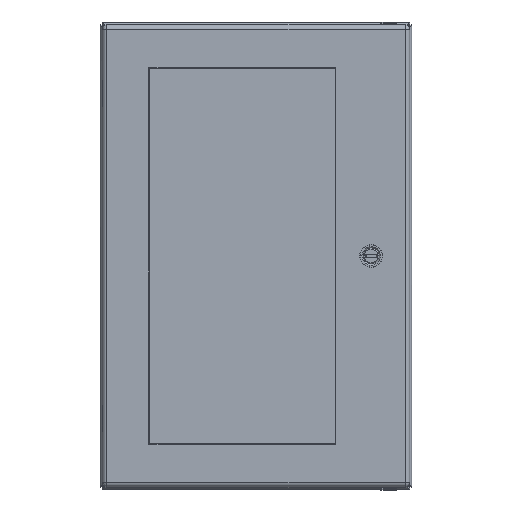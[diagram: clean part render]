
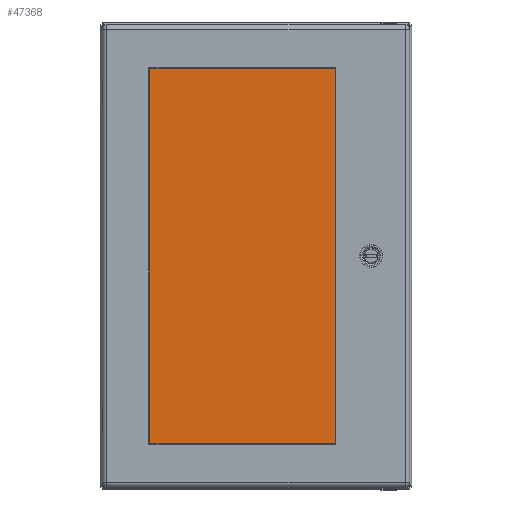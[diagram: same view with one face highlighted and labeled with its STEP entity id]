
A CAD part, top view. The second image highlights one B-rep face of the part: STEP entity #47368.
In plain terms, the highlighted planar face has unit normal (0, 0, 1).
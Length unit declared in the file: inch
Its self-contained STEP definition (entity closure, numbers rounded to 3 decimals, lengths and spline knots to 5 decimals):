
#1610 = VERTEX_POINT ( 'NONE', #25167 ) ;
#5544 = LINE ( 'NONE', #52063, #58571 ) ;
#6940 = EDGE_LOOP ( 'NONE', ( #24380, #16504, #56308, #15028 ) ) ;
#6947 = PLANE ( 'NONE',  #40014 ) ;
#7762 = CARTESIAN_POINT ( 'NONE',  ( 3.6285, -7.326, 0.23 ) ) ;
#9208 = VERTEX_POINT ( 'NONE', #7762 ) ;
#9959 = LINE ( 'NONE', #15436, #45050 ) ;
#12385 = DIRECTION ( 'NONE',  ( 0., 0., -1. ) ) ;
#13866 = CARTESIAN_POINT ( 'NONE',  ( -3.6285, 7.326, 0.23 ) ) ;
#15028 = ORIENTED_EDGE ( 'NONE', *, *, #52943, .T. ) ;
#15436 = CARTESIAN_POINT ( 'NONE',  ( 3.6285, 7.326, 0.23 ) ) ;
#16504 = ORIENTED_EDGE ( 'NONE', *, *, #58855, .T. ) ;
#18441 = LINE ( 'NONE', #56712, #23117 ) ;
#19370 = VERTEX_POINT ( 'NONE', #61952 ) ;
#21090 = LINE ( 'NONE', #13866, #39102 ) ;
#23117 = VECTOR ( 'NONE', #26862, 39.37008 ) ;
#23965 = FACE_OUTER_BOUND ( 'NONE', #6940, .T. ) ;
#24380 = ORIENTED_EDGE ( 'NONE', *, *, #42817, .T. ) ;
#25167 = CARTESIAN_POINT ( 'NONE',  ( -3.6285, -7.326, 0.23 ) ) ;
#25661 = DIRECTION ( 'NONE',  ( 0., 1., 0. ) ) ;
#26862 = DIRECTION ( 'NONE',  ( 1., 0., 0. ) ) ;
#32425 = DIRECTION ( 'NONE',  ( 0., -1., 0. ) ) ;
#35375 = EDGE_CURVE ( 'NONE', #9208, #19370, #9959, .T. ) ;
#39102 = VECTOR ( 'NONE', #63578, 39.37008 ) ;
#40014 = AXIS2_PLACEMENT_3D ( 'NONE', #42236, #12385, #47282 ) ;
#40210 = CARTESIAN_POINT ( 'NONE',  ( -3.6285, 7.326, 0.23 ) ) ;
#42236 = CARTESIAN_POINT ( 'NONE',  ( -3.9775, 7.675, 0.23 ) ) ;
#42817 = EDGE_CURVE ( 'NONE', #44935, #1610, #5544, .T. ) ;
#44935 = VERTEX_POINT ( 'NONE', #40210 ) ;
#45050 = VECTOR ( 'NONE', #25661, 39.37008 ) ;
#47282 = DIRECTION ( 'NONE',  ( -1., 0., 0. ) ) ;
#47368 = ADVANCED_FACE ( 'NONE', ( #23965 ), #6947, .F. ) ;
#52063 = CARTESIAN_POINT ( 'NONE',  ( -3.6285, 7.326, 0.23 ) ) ;
#52943 = EDGE_CURVE ( 'NONE', #19370, #44935, #21090, .T. ) ;
#56308 = ORIENTED_EDGE ( 'NONE', *, *, #35375, .T. ) ;
#56712 = CARTESIAN_POINT ( 'NONE',  ( -3.6285, -7.326, 0.23 ) ) ;
#58571 = VECTOR ( 'NONE', #32425, 39.37008 ) ;
#58855 = EDGE_CURVE ( 'NONE', #1610, #9208, #18441, .T. ) ;
#61952 = CARTESIAN_POINT ( 'NONE',  ( 3.6285, 7.326, 0.23 ) ) ;
#63578 = DIRECTION ( 'NONE',  ( -1., 0., 0. ) ) ;
